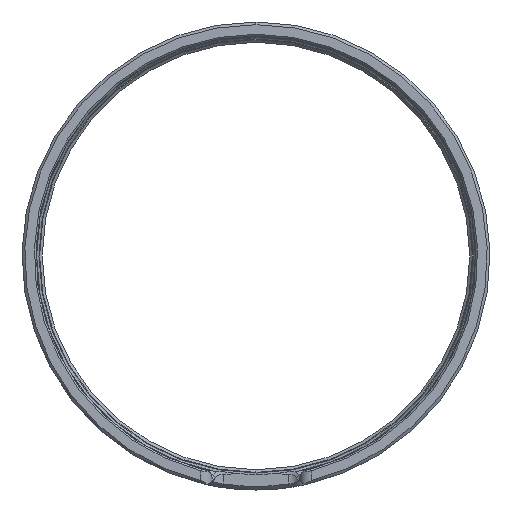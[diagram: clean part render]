
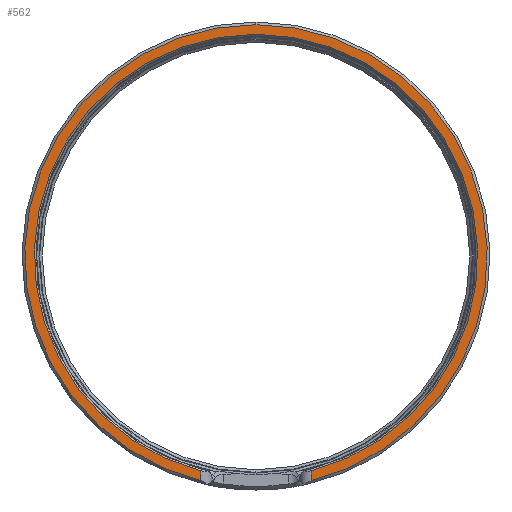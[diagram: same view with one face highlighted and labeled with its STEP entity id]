
A CAD part, left-side view. The second image highlights one B-rep face of the part: STEP entity #562.
In plain terms, the highlighted planar face has unit normal (-1, 0, 0).
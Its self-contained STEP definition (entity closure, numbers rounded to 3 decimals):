
#66 = EDGE_CURVE ( 'NONE', #330, #1835, #5564, .T. ) ;
#116 = VERTEX_POINT ( 'NONE', #5579 ) ;
#330 = VERTEX_POINT ( 'NONE', #5125 ) ;
#343 = DIRECTION ( 'NONE',  ( -1., 0., 0. ) ) ;
#437 = EDGE_CURVE ( 'NONE', #330, #116, #4342, .T. ) ;
#548 = CIRCLE ( 'NONE', #1943, 40.975 ) ;
#562 = ADVANCED_FACE ( 'NONE', ( #1282 ), #5682, .T. ) ;
#634 = ORIENTED_EDGE ( 'NONE', *, *, #4928, .T. ) ;
#788 = ORIENTED_EDGE ( 'NONE', *, *, #437, .F. ) ;
#909 = VECTOR ( 'NONE', #5707, 1000. ) ;
#1282 = FACE_OUTER_BOUND ( 'NONE', #3538, .T. ) ;
#1335 = CARTESIAN_POINT ( 'NONE',  ( -150., 10.2, -43.25 ) ) ;
#1337 = ORIENTED_EDGE ( 'NONE', *, *, #4240, .F. ) ;
#1835 = VERTEX_POINT ( 'NONE', #3669 ) ;
#1943 = AXIS2_PLACEMENT_3D ( 'NONE', #2118, #4267, #4300 ) ;
#1963 = CARTESIAN_POINT ( 'NONE',  ( -150., 0., 0. ) ) ;
#2035 = DIRECTION ( 'NONE',  ( 0., 0., 1. ) ) ;
#2118 = CARTESIAN_POINT ( 'NONE',  ( -150., 0., 0. ) ) ;
#2159 = CARTESIAN_POINT ( 'NONE',  ( -150., -10.2, -43.25 ) ) ;
#2291 = LINE ( 'NONE', #1335, #909 ) ;
#2415 = ORIENTED_EDGE ( 'NONE', *, *, #5026, .T. ) ;
#2471 = CARTESIAN_POINT ( 'NONE',  ( -150., 0., 0. ) ) ;
#2540 = CARTESIAN_POINT ( 'NONE',  ( -150., 0., 0. ) ) ;
#2688 = VECTOR ( 'NONE', #4841, 1000. ) ;
#2864 = AXIS2_PLACEMENT_3D ( 'NONE', #2540, #3933, #5712 ) ;
#2872 = ORIENTED_EDGE ( 'NONE', *, *, #66, .T. ) ;
#2873 = CIRCLE ( 'NONE', #4372, 42.75 ) ;
#2901 = VERTEX_POINT ( 'NONE', #4910 ) ;
#3538 = EDGE_LOOP ( 'NONE', ( #788, #2872, #634, #2415, #1337 ) ) ;
#3669 = CARTESIAN_POINT ( 'NONE',  ( -150., 0., 42.75 ) ) ;
#3741 = DIRECTION ( 'NONE',  ( -1., 0., 0. ) ) ;
#3933 = DIRECTION ( 'NONE',  ( -1., 0., 0. ) ) ;
#4027 = VERTEX_POINT ( 'NONE', #4290 ) ;
#4240 = EDGE_CURVE ( 'NONE', #116, #2901, #548, .T. ) ;
#4259 = AXIS2_PLACEMENT_3D ( 'NONE', #1963, #3741, #5517 ) ;
#4267 = DIRECTION ( 'NONE',  ( -1., 0., 0. ) ) ;
#4290 = CARTESIAN_POINT ( 'NONE',  ( -150., 10.2, -41.515 ) ) ;
#4300 = DIRECTION ( 'NONE',  ( 0., 0., 1. ) ) ;
#4342 = LINE ( 'NONE', #2159, #2688 ) ;
#4372 = AXIS2_PLACEMENT_3D ( 'NONE', #2471, #343, #2035 ) ;
#4841 = DIRECTION ( 'NONE',  ( 0., 0., 1. ) ) ;
#4910 = CARTESIAN_POINT ( 'NONE',  ( -150., 10.2, -39.685 ) ) ;
#4928 = EDGE_CURVE ( 'NONE', #1835, #4027, #2873, .T. ) ;
#5026 = EDGE_CURVE ( 'NONE', #4027, #2901, #2291, .T. ) ;
#5125 = CARTESIAN_POINT ( 'NONE',  ( -150., -10.2, -41.515 ) ) ;
#5517 = DIRECTION ( 'NONE',  ( 0., 0., 1. ) ) ;
#5564 = CIRCLE ( 'NONE', #4259, 42.75 ) ;
#5579 = CARTESIAN_POINT ( 'NONE',  ( -150., -10.2, -39.685 ) ) ;
#5682 = PLANE ( 'NONE',  #2864 ) ;
#5707 = DIRECTION ( 'NONE',  ( 0., 0., 1. ) ) ;
#5712 = DIRECTION ( 'NONE',  ( 0., 0., -1. ) ) ;
